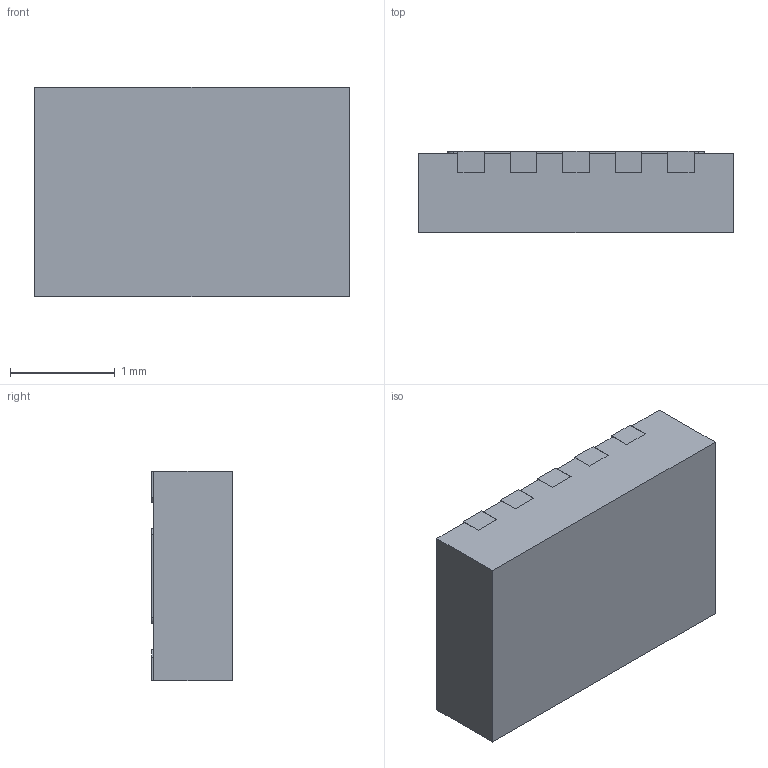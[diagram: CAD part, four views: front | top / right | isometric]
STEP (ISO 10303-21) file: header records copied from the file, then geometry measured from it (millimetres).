
FILE_DESCRIPTION (( 'STEP AP214' ), '1' );
FILE_NAME ('ADL6012.STEP', '2020-09-07T05:11:54', ( '' ), ( '' ), 'SwSTEP 2.0', 'SolidWorks 2019', '' );
FILE_SCHEMA (( 'AUTOMOTIVE_DESIGN' ));
Length unit declared in the file: millimetre
Products named in the file (3): ADL6012_Body; ADL6012_Leads; ADL6012
Assembly tree (2 placements, depth 2):
  ADL6012
    ADL6012_Leads
    ADL6012_Body
Bounding box: 3 x 0.77 x 2 mm (x, y, z)
Volume: 4.6 mm3; surface area: 33.6 mm2
Topology: 2 solids, 2 shells, 173 faces, 564 edges, 376 vertices
Faces by surface type: plane 159, cylinder 14
Entity records: 6238 total; most frequent: ORIENTED_EDGE 1128, CARTESIAN_POINT 1118, DIRECTION 950, EDGE_CURVE 564, VECTOR 534, LINE 534, VERTEX_POINT 376, AXIS2_PLACEMENT_3D 208
